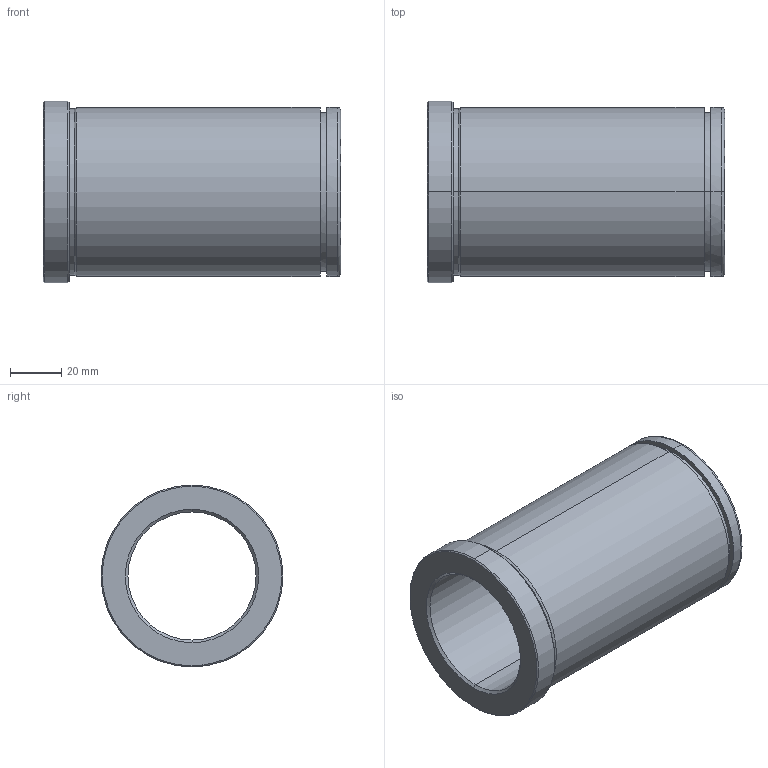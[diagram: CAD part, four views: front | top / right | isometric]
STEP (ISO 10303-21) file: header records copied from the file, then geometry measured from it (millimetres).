
FILE_DESCRIPTION(('CATIA V5 STEP Exchange'),'2;1');
FILE_NAME('C:\Users\Utente\Desktop\IO LAVORO\3D X SITO CF\X SITO\PLASTICA\553\553-50X116.stp','2021-06-08T18:23:39+00:00',('none'),('none'),'CATIA Version 5 Release 20 GA (IN-10)','CATIA V5 STEP AP203','none');
FILE_SCHEMA(('CONFIG_CONTROL_DESIGN'));
Length unit declared in the file: millimetre
Products named in the file (1): 553-50X116
Bounding box: 116 x 71 x 71 mm (x, y, z)
Volume: 172743.1 mm3; surface area: 46820.3 mm2
Topology: 1 solids, 1 shells, 29 faces, 92 edges, 68 vertices
Faces by surface type: cylinder 12, cone 8, plane 5, torus 4
Entity records: 1228 total; most frequent: CARTESIAN_POINT 374, ORIENTED_EDGE 184, DIRECTION 136, EDGE_CURVE 92, AXIS2_PLACEMENT_3D 88, VERTEX_POINT 68, CIRCLE 58, EDGE_LOOP 34
